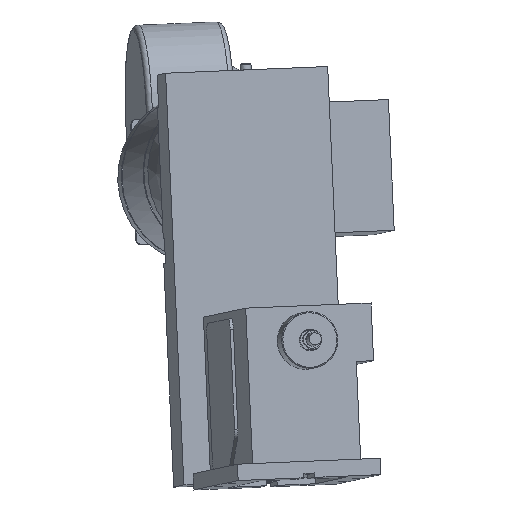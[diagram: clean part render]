
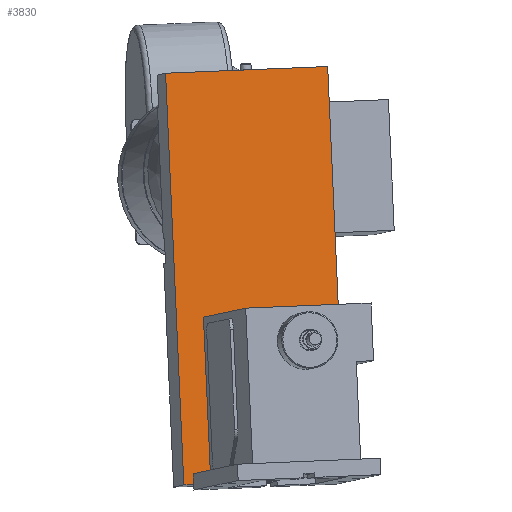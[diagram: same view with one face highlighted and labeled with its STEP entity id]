
A CAD part, front view. The second image highlights one B-rep face of the part: STEP entity #3830.
In plain terms, the highlighted planar face has unit normal (0.129, -0.991, 0.028).
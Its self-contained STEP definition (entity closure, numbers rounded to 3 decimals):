
#3551=CARTESIAN_POINT('',(49.428,232.062,362.209));
#3552=VERTEX_POINT('',#3551);
#3559=CARTESIAN_POINT('',(198.025,251.588,368.355));
#3560=VERTEX_POINT('',#3559);
#3561=CARTESIAN_POINT('',(49.428,232.062,362.209));
#3562=DIRECTION('',(0.991,0.13,0.041));
#3563=VECTOR('',#3562,150.0);
#3564=LINE('',#3561,#3563);
#3565=EDGE_CURVE('',#3552,#3560,#3564,.T.);
#3606=CARTESIAN_POINT('',(66.138,223.726,-15.33));
#3607=VERTEX_POINT('',#3606);
#3614=CARTESIAN_POINT('',(66.138,223.726,-15.33));
#3615=DIRECTION('',(-0.044,0.022,0.999));
#3616=VECTOR('',#3615,378.);
#3617=LINE('',#3614,#3616);
#3618=EDGE_CURVE('',#3607,#3552,#3617,.T.);
#3684=CARTESIAN_POINT('',(214.735,243.252,-9.184));
#3685=VERTEX_POINT('',#3684);
#3686=CARTESIAN_POINT('',(198.025,251.588,368.355));
#3687=DIRECTION('',(0.044,-0.022,-0.999));
#3688=VECTOR('',#3687,378.0);
#3689=LINE('',#3686,#3688);
#3690=EDGE_CURVE('',#3560,#3685,#3689,.T.);
#3715=CARTESIAN_POINT('',(205.819,242.081,-9.553));
#3716=VERTEX_POINT('',#3715);
#3717=CARTESIAN_POINT('',(214.735,243.252,-9.184));
#3718=DIRECTION('',(-0.991,-0.13,-0.041));
#3719=VECTOR('',#3718,9.);
#3720=LINE('',#3717,#3719);
#3721=EDGE_CURVE('',#3685,#3716,#3720,.T.);
#3723=CARTESIAN_POINT('',(75.054,224.898,-14.961));
#3724=VERTEX_POINT('',#3723);
#3731=CARTESIAN_POINT('',(75.054,224.898,-14.961));
#3732=DIRECTION('',(-0.991,-0.13,-0.041));
#3733=VECTOR('',#3732,9.);
#3734=LINE('',#3731,#3733);
#3735=EDGE_CURVE('',#3724,#3607,#3734,.T.);
#3748=CARTESIAN_POINT('',(132.081,237.657,176.513));
#3749=DIRECTION('',(0.129,-0.991,0.028));
#3750=DIRECTION('',(0.991,0.13,0.041));
#3751=AXIS2_PLACEMENT_3D('',#3748,#3749,#3750);
#3752=PLANE('',#3751);
#3753=CARTESIAN_POINT('',(205.377,242.301,0.435));
#3754=VERTEX_POINT('',#3753);
#3755=CARTESIAN_POINT('',(205.377,242.301,0.435));
#3756=DIRECTION('',(0.044,-0.022,-0.999));
#3757=VECTOR('',#3756,10.);
#3758=LINE('',#3755,#3757);
#3759=EDGE_CURVE('',#3754,#3716,#3758,.T.);
#3760=ORIENTED_EDGE('',*,*,#3759,.T.);
#3761=ORIENTED_EDGE('',*,*,#3721,.F.);
#3762=ORIENTED_EDGE('',*,*,#3690,.F.);
#3763=ORIENTED_EDGE('',*,*,#3565,.F.);
#3764=ORIENTED_EDGE('',*,*,#3618,.F.);
#3765=ORIENTED_EDGE('',*,*,#3735,.F.);
#3766=CARTESIAN_POINT('',(74.612,225.118,-4.973));
#3767=VERTEX_POINT('',#3766);
#3768=CARTESIAN_POINT('',(75.054,224.898,-14.961));
#3769=DIRECTION('',(-0.044,0.022,0.999));
#3770=VECTOR('',#3769,10.);
#3771=LINE('',#3768,#3770);
#3772=EDGE_CURVE('',#3724,#3767,#3771,.T.);
#3773=ORIENTED_EDGE('',*,*,#3772,.T.);
#3774=CARTESIAN_POINT('',(90.462,227.201,-4.317));
#3775=VERTEX_POINT('',#3774);
#3776=CARTESIAN_POINT('',(74.612,225.118,-4.973));
#3777=DIRECTION('',(0.991,0.13,0.041));
#3778=VECTOR('',#3777,16.);
#3779=LINE('',#3776,#3778);
#3780=EDGE_CURVE('',#3767,#3775,#3779,.T.);
#3781=ORIENTED_EDGE('',*,*,#3780,.T.);
#3782=CARTESIAN_POINT('',(84.141,230.355,138.508));
#3783=VERTEX_POINT('',#3782);
#3784=CARTESIAN_POINT('',(90.462,227.201,-4.317));
#3785=DIRECTION('',(-0.044,0.022,0.999));
#3786=VECTOR('',#3785,143.0);
#3787=LINE('',#3784,#3786);
#3788=EDGE_CURVE('',#3775,#3783,#3787,.T.);
#3789=ORIENTED_EDGE('',*,*,#3788,.T.);
#3790=CARTESIAN_POINT('',(199.055,245.455,143.261));
#3791=VERTEX_POINT('',#3790);
#3792=CARTESIAN_POINT('',(84.141,230.355,138.508));
#3793=DIRECTION('',(0.991,0.13,0.041));
#3794=VECTOR('',#3793,116.);
#3795=LINE('',#3792,#3794);
#3796=EDGE_CURVE('',#3783,#3791,#3795,.T.);
#3797=ORIENTED_EDGE('',*,*,#3796,.T.);
#3798=CARTESIAN_POINT('',(201.398,244.286,90.325));
#3799=VERTEX_POINT('',#3798);
#3800=CARTESIAN_POINT('',(201.398,244.286,90.325));
#3801=DIRECTION('',(-0.044,0.022,0.999));
#3802=VECTOR('',#3801,53.);
#3803=LINE('',#3800,#3802);
#3804=EDGE_CURVE('',#3799,#3791,#3803,.T.);
#3805=ORIENTED_EDGE('',*,*,#3804,.F.);
#3806=CARTESIAN_POINT('',(185.548,242.203,89.67));
#3807=VERTEX_POINT('',#3806);
#3808=CARTESIAN_POINT('',(185.548,242.203,89.67));
#3809=DIRECTION('',(0.991,0.13,0.041));
#3810=VECTOR('',#3809,16.);
#3811=LINE('',#3808,#3810);
#3812=EDGE_CURVE('',#3807,#3799,#3811,.T.);
#3813=ORIENTED_EDGE('',*,*,#3812,.F.);
#3814=CARTESIAN_POINT('',(189.526,240.219,-0.22));
#3815=VERTEX_POINT('',#3814);
#3816=CARTESIAN_POINT('',(185.548,242.203,89.67));
#3817=DIRECTION('',(0.044,-0.022,-0.999));
#3818=VECTOR('',#3817,90.);
#3819=LINE('',#3816,#3818);
#3820=EDGE_CURVE('',#3807,#3815,#3819,.T.);
#3821=ORIENTED_EDGE('',*,*,#3820,.T.);
#3822=CARTESIAN_POINT('',(189.526,240.219,-0.22));
#3823=DIRECTION('',(0.991,0.13,0.041));
#3824=VECTOR('',#3823,16.);
#3825=LINE('',#3822,#3824);
#3826=EDGE_CURVE('',#3815,#3754,#3825,.T.);
#3827=ORIENTED_EDGE('',*,*,#3826,.T.);
#3828=EDGE_LOOP('',(#3760,#3761,#3762,#3763,#3764,#3765,#3773,#3781,#3789,#3797,#3805,#3813,#3821,#3827));
#3829=FACE_OUTER_BOUND('',#3828,.T.);
#3830=ADVANCED_FACE('',(#3829),#3752,.T.);
